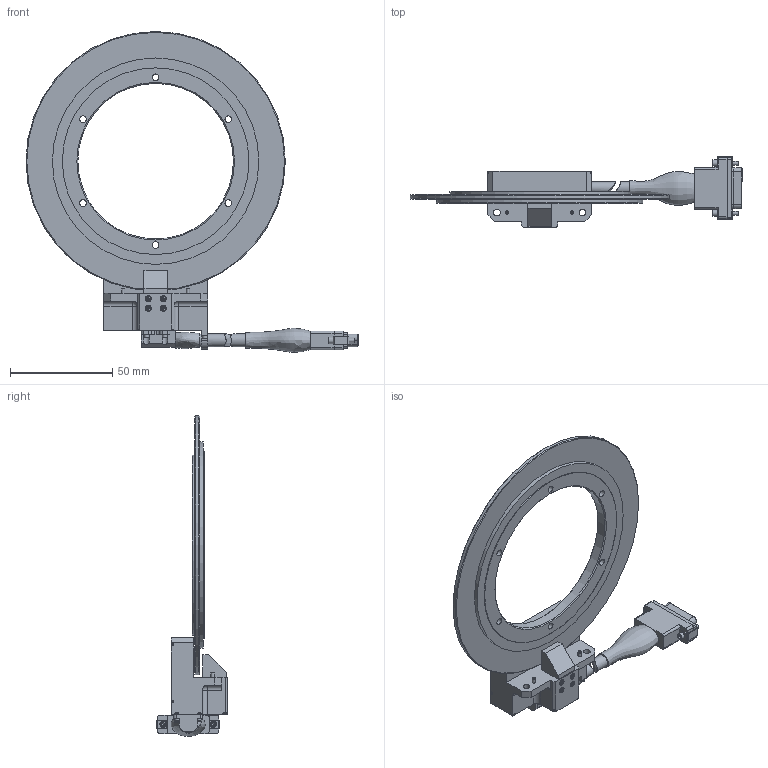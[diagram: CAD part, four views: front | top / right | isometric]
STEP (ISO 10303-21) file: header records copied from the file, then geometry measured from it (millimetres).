
FILE_DESCRIPTION (( 'STEP AP214' ), '1' );
FILE_NAME ('190-0314-03 Encoder Outline, 5 inch.STEP', '2021-02-24T18:31:46', ( '' ), ( '' ), 'SwSTEP 2.0', 'SolidWorks 2019', '' );
FILE_SCHEMA (( 'AUTOMOTIVE_DESIGN' ));
Length unit declared in the file: inch
Products named in the file (3): Disk Hub Assy, 5 inch; 190-0314-03 Encoder Outline, 5 inch; ARA Readhead Assy, Left Exit
Assembly tree (2 placements, depth 2):
  190-0314-03 Encoder Outline, 5 inch
    Disk Hub Assy, 5 inch
    ARA Readhead Assy, Left Exit
Bounding box: 162.61 x 34.74 x 157.18 mm (x, y, z)
Volume: 67366.8 mm3; surface area: 34533.1 mm2
Topology: 3 solids, 15 shells, 1532 faces, 3824 edges, 2491 vertices
Faces by surface type: plane 1008, cylinder 245, bspline 198, cone 77, sphere 2, torus 2
Full cylindrical faces by diameter (mm): 0.508 x25, 0.635 x25, 1.3 x2, 1.513 x1, 1.524 x12, 1.575 x2, 1.58 x2, 1.59 x2, 1.778 x12, 2.08 x2, 2.1 x4, 2.3 x2, 2.337 x2, 2.339 x1, 2.36 x2, 2.438 x18, 3.18 x2, 3.264 x6, 3.277 x2, 6.35 x3, 76.2 x1, 88.138 x1, 89.662 x1, 91.44 x1, 101.143 x1, 127 x1
Entity records: 83266 total; most frequent: CARTESIAN_POINT 29237, ORIENTED_EDGE 6954, DIRECTION 6326, EDGE_CURVE 3477, LINE 2438, VECTOR 2438, VERTEX_POINT 2382, EDGE_LOOP 1991
